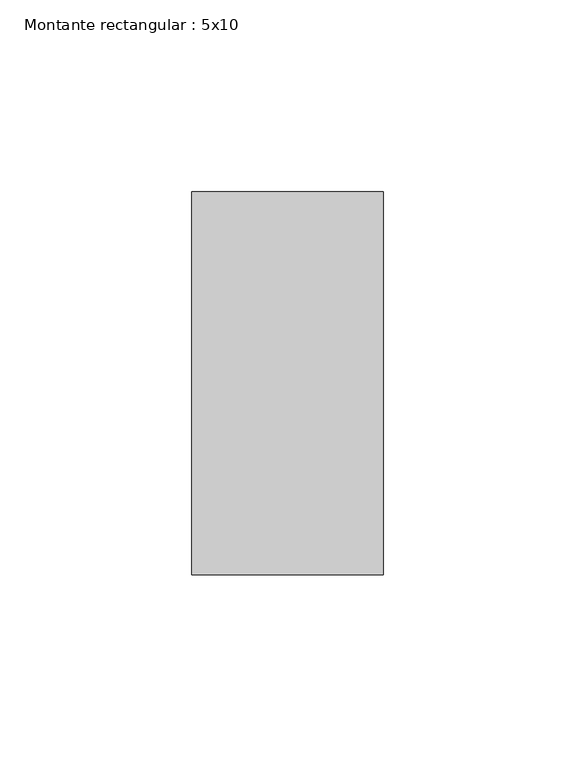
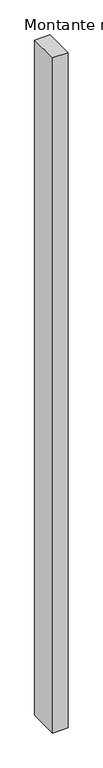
"""IFC4 building model written with IfcOpenShell, lengths in millimetres: member geometry, Montante rectangular : 5x10."""

from ifc_helpers import new_model, si_unit, frame, origin, place, context, project, spatial, polyline, outline, extrude, source, transform, mapped, element, save


def montante_rectangular_5x10_7026a3ec(model_context):
    return source(origin(), model_context, "Body", "SweptSolid", [
        extrude(outline(polyline([(25.0, 50.0), (25.0, -50.0), (-25.0, -50.0), (-25.0, 50.0), (25.0, 50.0)])), frame((0.0, 0.0, -2293.9997704), z_axis=(0.0, 0.0, 1.0), x_axis=(1.0, 0.0, 0.0)), (0.0, 0.0, 1.0), 2293.9997704),
    ])


if __name__ == "__main__":
    model = new_model("IFC4")
    model_context = context("Model", 3, world=origin())
    ifc_project = project(units=[si_unit("LENGTHUNIT", "METRE", prefix="MILLI")], contexts=[model_context])
    site = spatial("IfcSite", under=ifc_project)
    building = spatial("IfcBuilding", under=site)
    placement = place(None, origin())
    montante_rectangular_5x10_shape = montante_rectangular_5x10_7026a3ec(model_context)
    element("IfcMember", 1, ObjectType="Montante rectangular : 5x10", at=placement, inside=building, context=model_context, shape_type="MappedRepresentation", body=[
        mapped(montante_rectangular_5x10_shape, transform((0.0, 0.0, 0.0), x_axis=(1.0, 0.0, 0.0), y_axis=(0.0, 1.0, 0.0), z_axis=(0.0, 0.0, 1.0))),
    ])
    save(model, "model.ifc")
